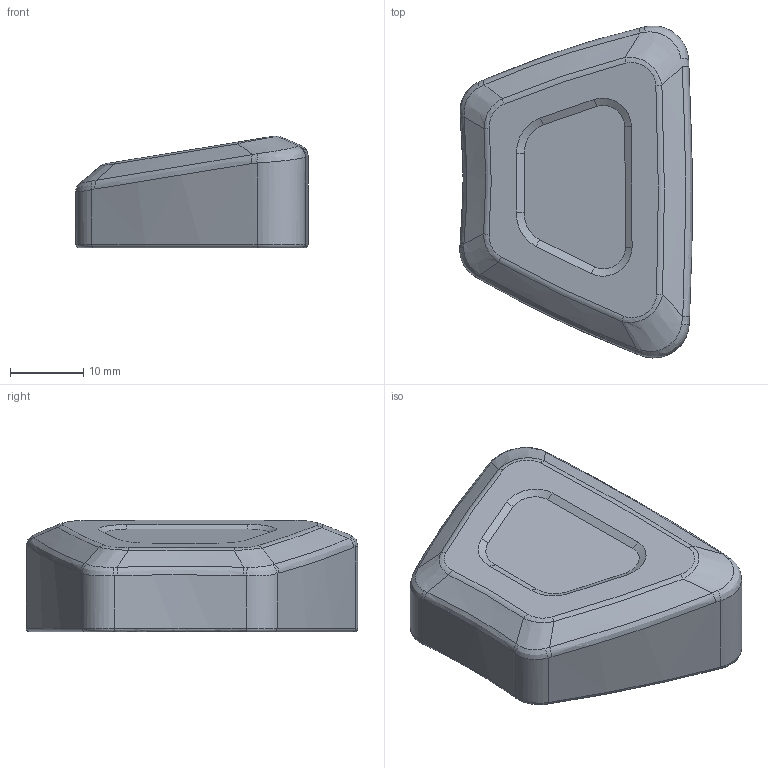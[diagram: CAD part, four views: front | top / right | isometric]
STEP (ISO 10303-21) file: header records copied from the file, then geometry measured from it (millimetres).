
FILE_DESCRIPTION(/* description */ (''),/* implementation_level */ '2;1');
FILE_NAME(/* name */ 'LAST_Grip 05.stp',/* time_stamp */ '2025-11-19T23:09:48+09:00',/* author */ (''),/* organization */ (''),/* preprocessor_version */ 'ST-DEVELOPER v11',/* originating_system */ 'SIEMENS PLM Software NX 7.5',/* authorisation */ '');
FILE_SCHEMA (('CONFIG_CONTROL_DESIGN'));
Length unit declared in the file: millimetre
Products named in the file (1): gyun8741ysf7
Bounding box: 31.67 x 45.2 x 15.24 mm (x, y, z)
Volume: 15017 mm3; surface area: 3835.3 mm2
Topology: 1 solids, 1 shells, 59 faces, 164 edges, 108 vertices
Faces by surface type: bspline 38, cylinder 7, torus 7, cone 4, plane 3
Entity records: 3071 total; most frequent: CARTESIAN_POINT 1821, ORIENTED_EDGE 328, EDGE_CURVE 164, DIRECTION 130, B_SPLINE_CURVE_WITH_KNOTS 110, VERTEX_POINT 108, AXIS2_PLACEMENT_3D 61, EDGE_LOOP 60
